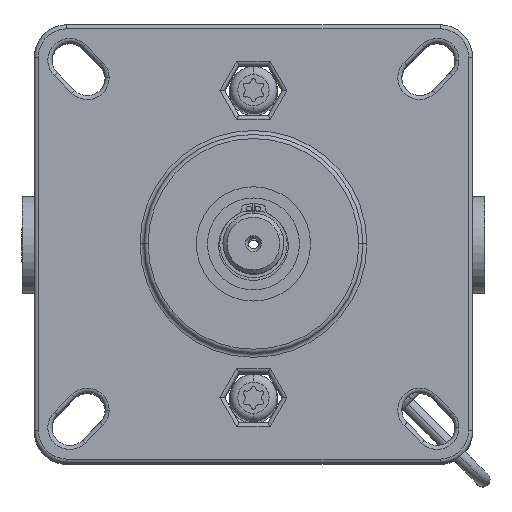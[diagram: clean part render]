
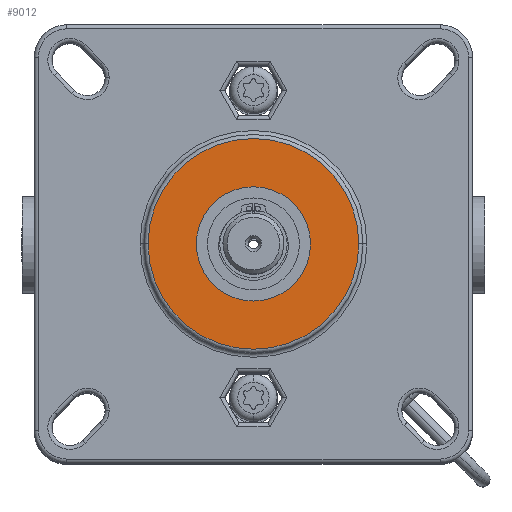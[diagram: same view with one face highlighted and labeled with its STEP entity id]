
A CAD part, top view. The second image highlights one B-rep face of the part: STEP entity #9012.
In plain terms, the highlighted planar face has unit normal (0, 0, 1).
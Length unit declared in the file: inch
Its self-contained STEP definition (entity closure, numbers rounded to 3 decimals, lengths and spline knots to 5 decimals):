
#1251 = CARTESIAN_POINT ( 'NONE',  ( 0.8115, 0., 0.539 ) ) ;
#1287 = CARTESIAN_POINT ( 'NONE',  ( -0.8115, 0., 0.539 ) ) ;
#1288 = DIRECTION ( 'NONE',  ( 1., 0., 0. ) ) ;
#1289 = DIRECTION ( 'NONE',  ( 0., 0., 1. ) ) ;
#1290 = CARTESIAN_POINT ( 'NONE',  ( 0., 0., 0.539 ) ) ;
#1291 = AXIS2_PLACEMENT_3D ( 'NONE', #1290, #1289, #1288 ) ;
#1292 = CIRCLE ( 'NONE', #1291, 0.8115 ) ;
#1421 = CARTESIAN_POINT ( 'NONE',  ( 0.44, 0., 0.539 ) ) ;
#1422 = CARTESIAN_POINT ( 'NONE',  ( -0.44, 0., 0.539 ) ) ;
#1423 = DIRECTION ( 'NONE',  ( 1., 0., 0. ) ) ;
#1424 = DIRECTION ( 'NONE',  ( 0., 0., -1. ) ) ;
#1425 = CARTESIAN_POINT ( 'NONE',  ( 0., 0., 0.539 ) ) ;
#1426 = AXIS2_PLACEMENT_3D ( 'NONE', #1425, #1424, #1423 ) ;
#1430 = CIRCLE ( 'NONE', #1426, 0.44 ) ;
#5605 = EDGE_CURVE ( 'NONE', #5606, #5607, #1292, .T. ) ;
#5606 = VERTEX_POINT ( 'NONE', #1287 ) ;
#5607 = VERTEX_POINT ( 'NONE', #1251 ) ;
#5706 = EDGE_CURVE ( 'NONE', #5707, #5708, #1430, .T. ) ;
#5707 = VERTEX_POINT ( 'NONE', #1422 ) ;
#5708 = VERTEX_POINT ( 'NONE', #1421 ) ;
#9008 = EDGE_CURVE ( 'NONE', #5708, #5707, #11981, .T. ) ;
#9012 = ADVANCED_FACE ( 'NONE', ( #11972, #11971 ), #11970, .F. ) ;
#9013 = EDGE_LOOP ( 'NONE', ( #9014, #9310 ) ) ;
#9014 = ORIENTED_EDGE ( 'NONE', *, *, #9309, .T. ) ;
#9176 = EDGE_LOOP ( 'NONE', ( #9177, #9178 ) ) ;
#9177 = ORIENTED_EDGE ( 'NONE', *, *, #9008, .T. ) ;
#9178 = ORIENTED_EDGE ( 'NONE', *, *, #5706, .T. ) ;
#9309 = EDGE_CURVE ( 'NONE', #5607, #5606, #12054, .T. ) ;
#9310 = ORIENTED_EDGE ( 'NONE', *, *, #5605, .T. ) ;
#11966 = DIRECTION ( 'NONE',  ( 1., 0., 0. ) ) ;
#11967 = DIRECTION ( 'NONE',  ( 0., 0., -1. ) ) ;
#11968 = CARTESIAN_POINT ( 'NONE',  ( 0., 0., 0.539 ) ) ;
#11969 = AXIS2_PLACEMENT_3D ( 'NONE', #11968, #11967, #11966 ) ;
#11970 = PLANE ( 'NONE',  #11969 ) ;
#11971 = FACE_BOUND ( 'NONE', #9176, .T. ) ;
#11972 = FACE_OUTER_BOUND ( 'NONE', #9013, .T. ) ;
#11978 = DIRECTION ( 'NONE',  ( 1., 0., 0. ) ) ;
#11979 = DIRECTION ( 'NONE',  ( 0., 0., -1. ) ) ;
#11980 = AXIS2_PLACEMENT_3D ( 'NONE', #11985, #11979, #11978 ) ;
#11981 = CIRCLE ( 'NONE', #11980, 0.44 ) ;
#11985 = CARTESIAN_POINT ( 'NONE',  ( 0., 0., 0.539 ) ) ;
#12051 = DIRECTION ( 'NONE',  ( 0., 0., 1. ) ) ;
#12052 = CARTESIAN_POINT ( 'NONE',  ( 0., 0., 0.539 ) ) ;
#12053 = AXIS2_PLACEMENT_3D ( 'NONE', #12052, #12051, #12097 ) ;
#12054 = CIRCLE ( 'NONE', #12053, 0.8115 ) ;
#12097 = DIRECTION ( 'NONE',  ( 1., 0., 0. ) ) ;
